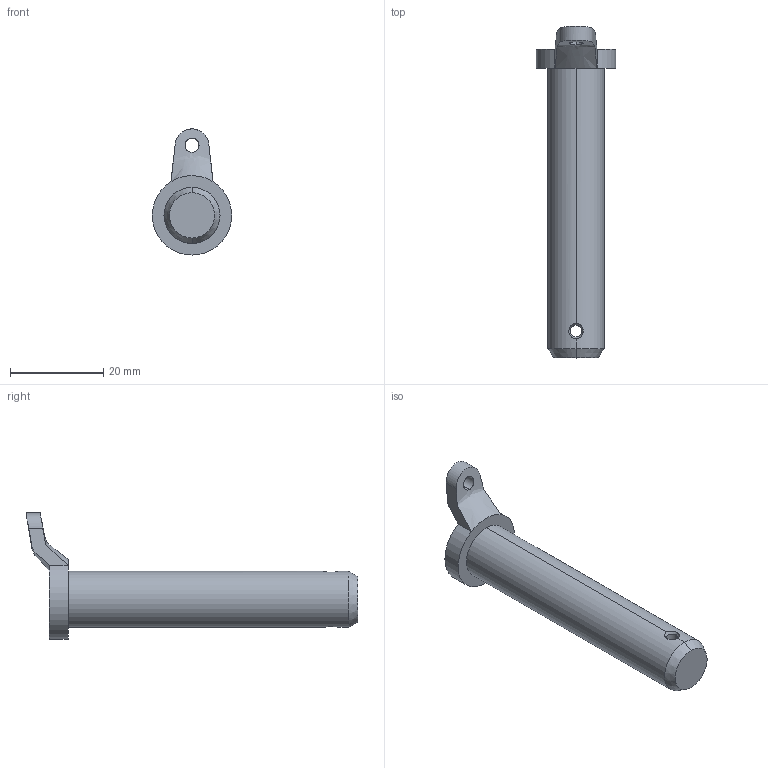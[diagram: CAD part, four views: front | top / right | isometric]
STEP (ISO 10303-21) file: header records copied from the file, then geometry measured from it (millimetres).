
FILE_DESCRIPTION (( 'STEP AP214' ), '1' );
FILE_NAME ('2342-NI-12-55-E-2.step', '2023-09-25T13:15:01', ( '' ), ( '' ), 'SwSTEP 2.0', 'SolidWorks 2022', '' );
FILE_SCHEMA (( 'AUTOMOTIVE_DESIGN' ));
Length unit declared in the file: millimetre
Products named in the file (1): 2342-NI-12-55-E-2
Bounding box: 17 x 71 x 27 mm (x, y, z)
Volume: 8026.1 mm3; surface area: 3370.5 mm2
Topology: 1 solids, 2 shells, 52 faces, 136 edges, 88 vertices
Faces by surface type: cylinder 32, cone 10, plane 8, bspline 2
Entity records: 2009 total; most frequent: CARTESIAN_POINT 686, ORIENTED_EDGE 272, DIRECTION 272, EDGE_CURVE 136, AXIS2_PLACEMENT_3D 113, VERTEX_POINT 88, CIRCLE 62, EDGE_LOOP 58
